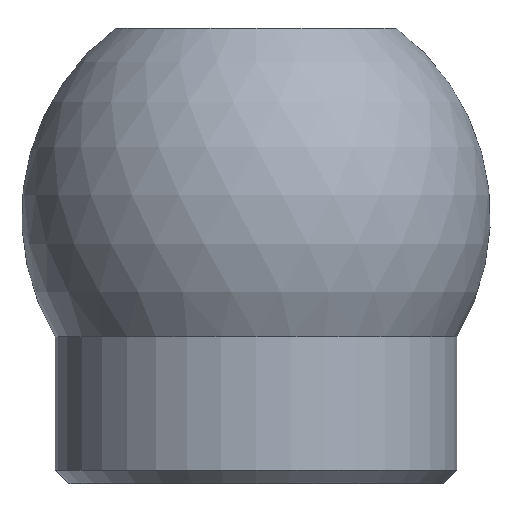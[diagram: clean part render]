
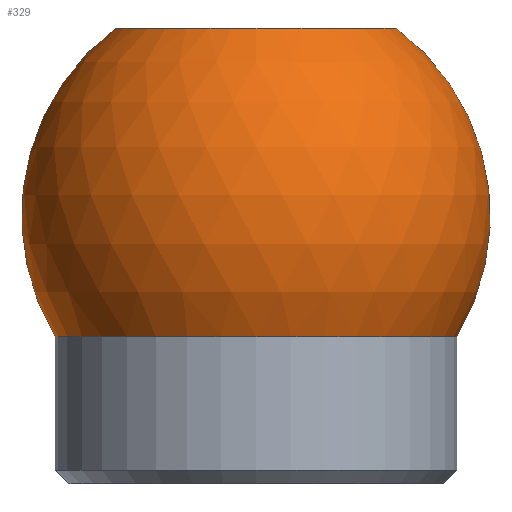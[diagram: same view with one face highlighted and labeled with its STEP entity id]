
A CAD part, front view. The second image highlights one B-rep face of the part: STEP entity #329.
In plain terms, the highlighted spherical face has radius 17.5 mm.
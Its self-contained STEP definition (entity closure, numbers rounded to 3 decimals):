
#59=CARTESIAN_POINT('',(0.,0.,0.));
#60=DIRECTION('',(0.,0.,1.));
#61=DIRECTION('',(-1.,0.,0.));
#62=AXIS2_PLACEMENT_3D('',#59,#60,#61);
#83=CARTESIAN_POINT('',(0.,0.,-14.));
#84=DIRECTION('',(0.,-1.,0.));
#85=DIRECTION('',(0.857,0.,-0.515));
#86=AXIS2_PLACEMENT_3D('',#83,#84,#85);
#88=CARTESIAN_POINT('',(0.,0.,-14.));
#89=DIRECTION('',(0.,-1.,0.));
#90=DIRECTION('',(-0.6,0.,0.8));
#91=AXIS2_PLACEMENT_3D('',#88,#89,#90);
#103=CARTESIAN_POINT('',(0.,0.,-23.014));
#104=DIRECTION('',(0.,0.,1.));
#105=DIRECTION('',(-1.,0.,0.));
#106=AXIS2_PLACEMENT_3D('',#103,#104,#105);
#177=CARTESIAN_POINT('',(15.,0.,-23.014));
#178=CARTESIAN_POINT('',(-15.,0.,-23.014));
#179=VERTEX_POINT('',#177);
#180=VERTEX_POINT('',#178);
#181=CARTESIAN_POINT('',(-10.5,0.,0.));
#182=CARTESIAN_POINT('',(10.5,0.,0.));
#183=VERTEX_POINT('',#181);
#184=VERTEX_POINT('',#182);
#315=CARTESIAN_POINT('',(0.,0.,-14.));
#316=DIRECTION('',(0.,0.,1.));
#317=DIRECTION('',(-1.,0.,0.));
#318=AXIS2_PLACEMENT_3D('',#315,#316,#317);
#319=SPHERICAL_SURFACE('',#318,17.5);
#321=ORIENTED_EDGE('',*,*,#320,.F.);
#322=ORIENTED_EDGE('',*,*,#278,.T.);
#324=ORIENTED_EDGE('',*,*,#323,.F.);
#326=ORIENTED_EDGE('',*,*,#325,.F.);
#327=EDGE_LOOP('',(#321,#322,#324,#326));
#328=FACE_OUTER_BOUND('',#327,.F.);
#329=ADVANCED_FACE('',(#328),#319,.T.);
#63=CIRCLE('',#62,10.5);
#87=CIRCLE('',#86,17.5);
#92=CIRCLE('',#91,17.5);
#107=CIRCLE('',#106,15.);
#278=EDGE_CURVE('',#183,#184,#63,.T.);
#320=EDGE_CURVE('',#183,#180,#92,.T.);
#323=EDGE_CURVE('',#179,#184,#87,.T.);
#325=EDGE_CURVE('',#180,#179,#107,.T.);
